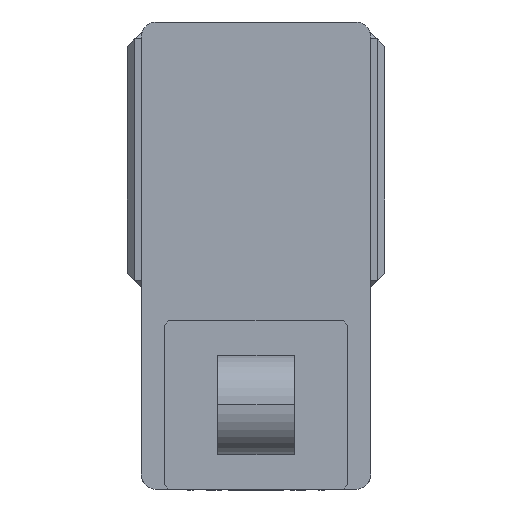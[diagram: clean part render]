
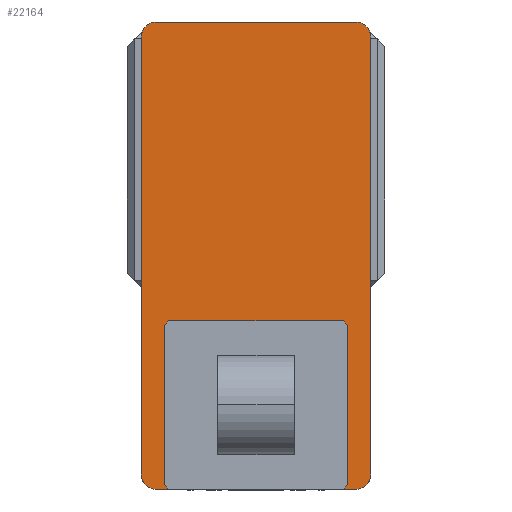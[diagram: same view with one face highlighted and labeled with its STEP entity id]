
A CAD part, left-side view. The second image highlights one B-rep face of the part: STEP entity #22164.
In plain terms, the highlighted planar face has unit normal (-1, 0, 0) as drawn and (0, 0, 1) by its records, which use the part's own axes.
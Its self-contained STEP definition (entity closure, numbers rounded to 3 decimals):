
#306 = AXIS2_PLACEMENT_3D ( 'NONE', #22448, #11707, #995 ) ;
#526 = VERTEX_POINT ( 'NONE', #21226 ) ;
#581 = EDGE_CURVE ( 'NONE', #9087, #21034, #5180, .T. ) ;
#656 = EDGE_CURVE ( 'NONE', #6188, #9087, #11864, .T. ) ;
#995 = DIRECTION ( 'NONE',  ( 1., 0., 0. ) ) ;
#1000 = CARTESIAN_POINT ( 'NONE',  ( 65., -152.5, 105. ) ) ;
#1306 = CIRCLE ( 'NONE', #10229, 10. ) ;
#2258 = FACE_OUTER_BOUND ( 'NONE', #14018, .T. ) ;
#2388 = CARTESIAN_POINT ( 'NONE',  ( 0., 0., 105. ) ) ;
#2625 = EDGE_CURVE ( 'NONE', #17179, #526, #12452, .T. ) ;
#2951 = VECTOR ( 'NONE', #21850, 1000. ) ;
#3655 = CARTESIAN_POINT ( 'NONE',  ( -65., 152.5, 105. ) ) ;
#3686 = VERTEX_POINT ( 'NONE', #18305 ) ;
#3733 = CARTESIAN_POINT ( 'NONE',  ( -75., -152.5, 105. ) ) ;
#4154 = CARTESIAN_POINT ( 'NONE',  ( 75., 142.5, 105. ) ) ;
#4210 = DIRECTION ( 'NONE',  ( 1., 0., 0. ) ) ;
#4640 = LINE ( 'NONE', #3733, #9367 ) ;
#5175 = EDGE_CURVE ( 'NONE', #526, #9093, #8333, .T. ) ;
#5180 = LINE ( 'NONE', #7149, #17190 ) ;
#5321 = EDGE_CURVE ( 'NONE', #21034, #17179, #1306, .T. ) ;
#6188 = VERTEX_POINT ( 'NONE', #4154 ) ;
#7081 = ORIENTED_EDGE ( 'NONE', *, *, #656, .T. ) ;
#7149 = CARTESIAN_POINT ( 'NONE',  ( -75., 152.5, 105. ) ) ;
#7217 = CARTESIAN_POINT ( 'NONE',  ( -75., 142.5, 105. ) ) ;
#7818 = CARTESIAN_POINT ( 'NONE',  ( 75., 152.5, 105. ) ) ;
#7890 = DIRECTION ( 'NONE',  ( 0., 1., 0. ) ) ;
#8122 = LINE ( 'NONE', #7818, #13424 ) ;
#8159 = DIRECTION ( 'NONE',  ( 0., 0., 1. ) ) ;
#8332 = EDGE_CURVE ( 'NONE', #3686, #6188, #8122, .T. ) ;
#8333 = CIRCLE ( 'NONE', #20303, 10. ) ;
#9087 = VERTEX_POINT ( 'NONE', #11660 ) ;
#9093 = VERTEX_POINT ( 'NONE', #13537 ) ;
#9304 = CARTESIAN_POINT ( 'NONE',  ( -75., 152.5, 105. ) ) ;
#9367 = VECTOR ( 'NONE', #16238, 1000. ) ;
#9677 = VERTEX_POINT ( 'NONE', #1000 ) ;
#9848 = ORIENTED_EDGE ( 'NONE', *, *, #13789, .T. ) ;
#10147 = CARTESIAN_POINT ( 'NONE',  ( -65., 142.5, 105. ) ) ;
#10229 = AXIS2_PLACEMENT_3D ( 'NONE', #10147, #22698, #11971 ) ;
#11660 = CARTESIAN_POINT ( 'NONE',  ( 65., 152.5, 105. ) ) ;
#11707 = DIRECTION ( 'NONE',  ( 0., 0., 1. ) ) ;
#11864 = CIRCLE ( 'NONE', #11970, 10. ) ;
#11881 = DIRECTION ( 'NONE',  ( 1., 0., 0. ) ) ;
#11970 = AXIS2_PLACEMENT_3D ( 'NONE', #22041, #14240, #11881 ) ;
#11971 = DIRECTION ( 'NONE',  ( 1., 0., 0. ) ) ;
#12452 = LINE ( 'NONE', #9304, #2951 ) ;
#13112 = PLANE ( 'NONE',  #19022 ) ;
#13187 = CIRCLE ( 'NONE', #306, 10. ) ;
#13352 = ORIENTED_EDGE ( 'NONE', *, *, #2625, .T. ) ;
#13424 = VECTOR ( 'NONE', #7890, 1000. ) ;
#13537 = CARTESIAN_POINT ( 'NONE',  ( -65., -152.5, 105. ) ) ;
#13789 = EDGE_CURVE ( 'NONE', #9093, #9677, #4640, .T. ) ;
#14018 = EDGE_LOOP ( 'NONE', ( #9848, #21127, #22994, #7081, #21772, #20594, #13352, #15496 ) ) ;
#14240 = DIRECTION ( 'NONE',  ( 0., 0., 1. ) ) ;
#14893 = DIRECTION ( 'NONE',  ( 0., 0., 1. ) ) ;
#15496 = ORIENTED_EDGE ( 'NONE', *, *, #5175, .T. ) ;
#16238 = DIRECTION ( 'NONE',  ( 1., 0., 0. ) ) ;
#17179 = VERTEX_POINT ( 'NONE', #7217 ) ;
#17190 = VECTOR ( 'NONE', #19637, 1000. ) ;
#18305 = CARTESIAN_POINT ( 'NONE',  ( 75., -142.5, 105. ) ) ;
#18848 = CARTESIAN_POINT ( 'NONE',  ( -65., -142.5, 105. ) ) ;
#19022 = AXIS2_PLACEMENT_3D ( 'NONE', #2388, #14893, #4210 ) ;
#19637 = DIRECTION ( 'NONE',  ( -1., 0., 0. ) ) ;
#20303 = AXIS2_PLACEMENT_3D ( 'NONE', #18848, #8159, #20667 ) ;
#20594 = ORIENTED_EDGE ( 'NONE', *, *, #5321, .T. ) ;
#20667 = DIRECTION ( 'NONE',  ( 1., 0., 0. ) ) ;
#21034 = VERTEX_POINT ( 'NONE', #3655 ) ;
#21127 = ORIENTED_EDGE ( 'NONE', *, *, #21613, .T. ) ;
#21226 = CARTESIAN_POINT ( 'NONE',  ( -75., -142.5, 105. ) ) ;
#21613 = EDGE_CURVE ( 'NONE', #9677, #3686, #13187, .T. ) ;
#21772 = ORIENTED_EDGE ( 'NONE', *, *, #581, .T. ) ;
#21850 = DIRECTION ( 'NONE',  ( 0., -1., 0. ) ) ;
#22041 = CARTESIAN_POINT ( 'NONE',  ( 65., 142.5, 105. ) ) ;
#22164 = ADVANCED_FACE ( 'NONE', ( #2258 ), #13112, .T. ) ;
#22448 = CARTESIAN_POINT ( 'NONE',  ( 65., -142.5, 105. ) ) ;
#22698 = DIRECTION ( 'NONE',  ( 0., 0., 1. ) ) ;
#22994 = ORIENTED_EDGE ( 'NONE', *, *, #8332, .T. ) ;
